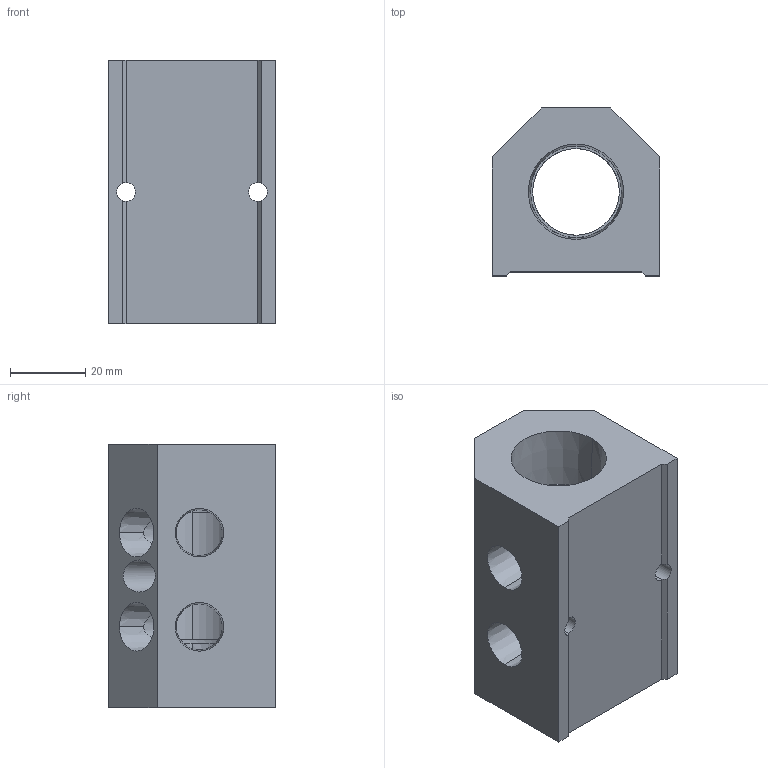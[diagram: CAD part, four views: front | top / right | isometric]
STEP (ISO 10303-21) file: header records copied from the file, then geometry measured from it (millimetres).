
FILE_DESCRIPTION (( 'STEP AP214' ), '1' );
FILE_NAME ('ALM2ABC-N4N12-70R.step', '2022-02-06T14:05:55', ( '' ), ( '' ), 'SwSTEP 2.0', 'SolidWorks 2020', '' );
FILE_SCHEMA (( 'AUTOMOTIVE_DESIGN' ));
Length unit declared in the file: millimetre
Products named in the file (1): ALM2ABC-N4N12-70R
Bounding box: 44.5 x 44.5 x 70 mm (x, y, z)
Volume: 82863.3 mm3; surface area: 21552 mm2
Topology: 1 solids, 1 shells, 298 faces, 807 edges, 536 vertices
Faces by surface type: plane 208, bspline 50, cone 22, cylinder 18
Entity records: 16015 total; most frequent: CARTESIAN_POINT 6160, ORIENTED_EDGE 1614, DIRECTION 1189, EDGE_CURVE 807, VECTOR 587, LINE 587, VERTEX_POINT 536, EDGE_LOOP 341
